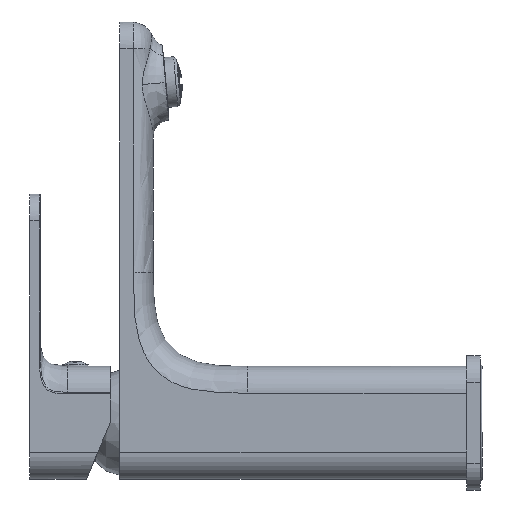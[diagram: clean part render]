
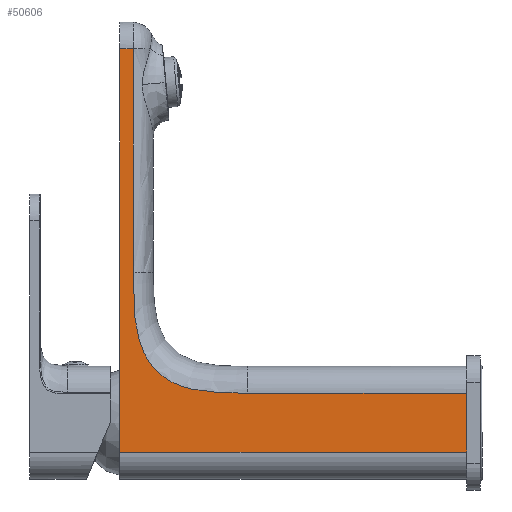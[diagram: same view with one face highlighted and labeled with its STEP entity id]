
A CAD part, left-side view. The second image highlights one B-rep face of the part: STEP entity #50606.
In plain terms, the highlighted planar face has unit normal (-1, 0, 0).
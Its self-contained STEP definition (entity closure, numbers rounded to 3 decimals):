
#3848=PLANE('',#54274);
#6004=FACE_OUTER_BOUND('',#9418,.T.);
#9418=EDGE_LOOP('',(#46470,#46471,#46472,#46473,#46474,#46475,#46476));
#12135=B_SPLINE_CURVE_WITH_KNOTS('',3,(#125330,#125331,#125332,#125333,
#125334,#125335,#125336,#125337,#125338,#125339,#125340,#125341,#125342,
#125343,#125344,#125345,#125346,#125347,#125348),.UNSPECIFIED.,.F.,.F.,
(4,1,1,1,1,1,1,1,1,1,1,1,1,1,1,1,4),(0.,4.173,8.346,12.52,
16.693,20.866,25.039,29.212,33.386,
37.559,41.732,45.905,50.079,54.252,
58.425,62.598,66.771),.UNSPECIFIED.);
#15487=LINE('',#125072,#18913);
#15493=LINE('',#125153,#18919);
#15497=LINE('',#125206,#18923);
#15498=LINE('',#125222,#18924);
#15503=LINE('',#125327,#18929);
#15504=LINE('',#125349,#18930);
#18913=VECTOR('',#64724,150.);
#18919=VECTOR('',#64744,130.);
#18923=VECTOR('',#64750,82.5);
#18924=VECTOR('',#64753,22.);
#18929=VECTOR('',#64764,5.);
#18930=VECTOR('',#64767,83.);
#24037=VERTEX_POINT('',#125069);
#24038=VERTEX_POINT('',#125071);
#24048=VERTEX_POINT('',#125151);
#24051=VERTEX_POINT('',#125190);
#24052=VERTEX_POINT('',#125205);
#24057=VERTEX_POINT('',#125300);
#24058=VERTEX_POINT('',#125329);
#31559=EDGE_CURVE('',#24037,#24038,#15487,.T.);
#31572=EDGE_CURVE('',#24037,#24048,#15493,.T.);
#31577=EDGE_CURVE('',#24051,#24052,#15497,.T.);
#31579=EDGE_CURVE('',#24052,#24048,#15498,.T.);
#31588=EDGE_CURVE('',#24057,#24038,#15503,.T.);
#31589=EDGE_CURVE('',#24058,#24051,#12135,.T.);
#31590=EDGE_CURVE('',#24058,#24057,#15504,.T.);
#46470=ORIENTED_EDGE('',*,*,#31579,.F.);
#46471=ORIENTED_EDGE('',*,*,#31577,.F.);
#46472=ORIENTED_EDGE('',*,*,#31589,.F.);
#46473=ORIENTED_EDGE('',*,*,#31590,.T.);
#46474=ORIENTED_EDGE('',*,*,#31588,.T.);
#46475=ORIENTED_EDGE('',*,*,#31559,.F.);
#46476=ORIENTED_EDGE('',*,*,#31572,.T.);
#50606=ADVANCED_FACE('',(#6004),#3848,.T.);
#54274=AXIS2_PLACEMENT_3D('',#125328,#64765,#64766);
#64724=DIRECTION('',(0.,0.,1.));
#64744=DIRECTION('',(0.,-1.,0.));
#64750=DIRECTION('',(0.,-1.,0.));
#64753=DIRECTION('',(0.,0.,-1.));
#64764=DIRECTION('',(0.,1.,0.));
#64765=DIRECTION('center_axis',(-1.,0.,0.));
#64766=DIRECTION('ref_axis',(0.,-1.,0.));
#64767=DIRECTION('',(0.,0.,1.));
#125069=CARTESIAN_POINT('',(-60.,150.,-10.));
#125071=CARTESIAN_POINT('',(-60.,150.,140.));
#125072=CARTESIAN_POINT('',(-60.,150.,-10.));
#125151=CARTESIAN_POINT('',(-60.,20.,-10.));
#125153=CARTESIAN_POINT('',(-60.,150.,-10.));
#125190=CARTESIAN_POINT('',(-60.,102.5,12.));
#125205=CARTESIAN_POINT('',(-60.,20.,12.));
#125206=CARTESIAN_POINT('',(-60.,102.5,12.));
#125222=CARTESIAN_POINT('',(-60.,20.,12.));
#125300=CARTESIAN_POINT('',(-60.,145.,140.));
#125327=CARTESIAN_POINT('',(-60.,145.,140.));
#125328=CARTESIAN_POINT('Origin',(-60.,17.4,65.));
#125329=CARTESIAN_POINT('',(-60.,145.,57.));
#125330=CARTESIAN_POINT('Ctrl Pts',(-60.,145.,57.));
#125331=CARTESIAN_POINT('Ctrl Pts',(-60.,145.,
55.447));
#125332=CARTESIAN_POINT('Ctrl Pts',(-60.,145.,
52.338));
#125333=CARTESIAN_POINT('Ctrl Pts',(-60.,144.923,
47.684));
#125334=CARTESIAN_POINT('Ctrl Pts',(-60.,144.691,
43.026));
#125335=CARTESIAN_POINT('Ctrl Pts',(-60.,144.217,
38.388));
#125336=CARTESIAN_POINT('Ctrl Pts',(-60.,143.393,
33.795));
#125337=CARTESIAN_POINT('Ctrl Pts',(-60.,142.096,29.326));
#125338=CARTESIAN_POINT('Ctrl Pts',(-60.,140.162,
25.06));
#125339=CARTESIAN_POINT('Ctrl Pts',(-60.,137.482,
21.235));
#125340=CARTESIAN_POINT('Ctrl Pts',(-60.,134.04,
18.057));
#125341=CARTESIAN_POINT('Ctrl Pts',(-60.,130.011,15.672));
#125342=CARTESIAN_POINT('Ctrl Pts',(-60.,125.642,14.036));
#125343=CARTESIAN_POINT('Ctrl Pts',(-60.,121.097,
12.994));
#125344=CARTESIAN_POINT('Ctrl Pts',(-60.,116.474,
12.393));
#125345=CARTESIAN_POINT('Ctrl Pts',(-60.,111.827,
12.099));
#125346=CARTESIAN_POINT('Ctrl Pts',(-60.,107.173,
12.));
#125347=CARTESIAN_POINT('Ctrl Pts',(-60.,104.057,
12.));
#125348=CARTESIAN_POINT('Ctrl Pts',(-60.,102.5,12.));
#125349=CARTESIAN_POINT('',(-60.,145.,57.));
